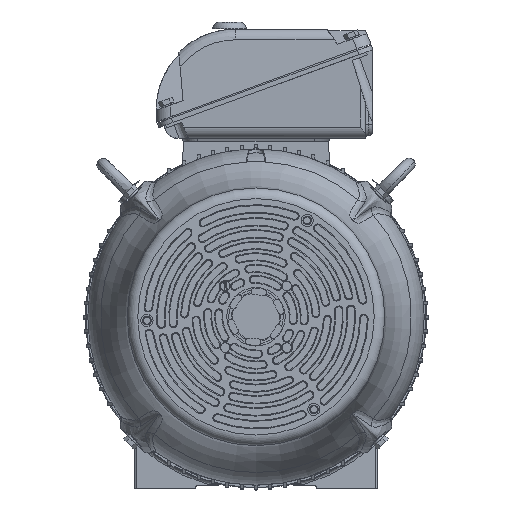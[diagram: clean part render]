
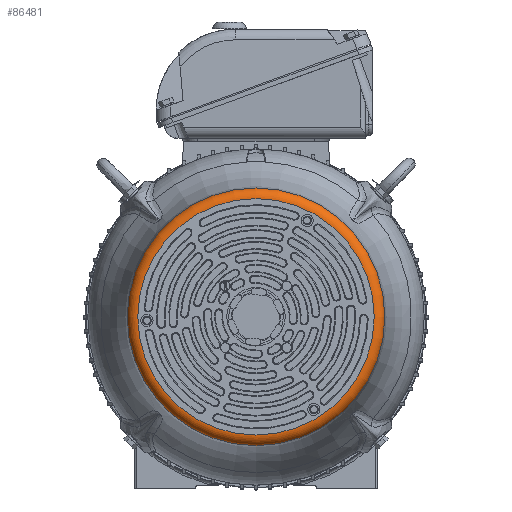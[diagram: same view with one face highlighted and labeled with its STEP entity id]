
A CAD part, top view. The second image highlights one B-rep face of the part: STEP entity #86481.
In plain terms, the highlighted toroidal (fillet/blend) face has major radius 156 mm and minor radius 14 mm.
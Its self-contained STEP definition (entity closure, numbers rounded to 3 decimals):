
#5383=TOROIDAL_SURFACE('',#92766,156.,14.);
#9852=FACE_OUTER_BOUND('',#14873,.T.);
#14873=EDGE_LOOP('',(#63546,#63547,#63548,#63549,#63550,#63551));
#19709=CIRCLE('',#92767,170.);
#19710=CIRCLE('',#92768,170.);
#19711=CIRCLE('',#92769,14.);
#19712=CIRCLE('',#92770,156.);
#19713=CIRCLE('',#92771,156.);
#36542=VERTEX_POINT('',#144948);
#36543=VERTEX_POINT('',#144949);
#36544=VERTEX_POINT('',#144952);
#36545=VERTEX_POINT('',#144954);
#46397=EDGE_CURVE('',#36542,#36543,#19709,.T.);
#46398=EDGE_CURVE('',#36543,#36542,#19710,.T.);
#46399=EDGE_CURVE('',#36543,#36544,#19711,.T.);
#46400=EDGE_CURVE('',#36544,#36545,#19712,.T.);
#46401=EDGE_CURVE('',#36545,#36544,#19713,.T.);
#63546=ORIENTED_EDGE('',*,*,#46397,.F.);
#63547=ORIENTED_EDGE('',*,*,#46398,.F.);
#63548=ORIENTED_EDGE('',*,*,#46399,.T.);
#63549=ORIENTED_EDGE('',*,*,#46400,.T.);
#63550=ORIENTED_EDGE('',*,*,#46401,.T.);
#63551=ORIENTED_EDGE('',*,*,#46399,.F.);
#86481=ADVANCED_FACE('',(#9852),#5383,.T.);
#92766=AXIS2_PLACEMENT_3D('',#144947,#106797,#106798);
#92767=AXIS2_PLACEMENT_3D('',#144950,#106799,#106800);
#92768=AXIS2_PLACEMENT_3D('',#144951,#106801,#106802);
#92769=AXIS2_PLACEMENT_3D('',#144953,#106803,#106804);
#92770=AXIS2_PLACEMENT_3D('',#144955,#106805,#106806);
#92771=AXIS2_PLACEMENT_3D('',#144956,#106807,#106808);
#106797=DIRECTION('center_axis',(0.,0.,
-1.));
#106798=DIRECTION('ref_axis',(0.,1.,0.));
#106799=DIRECTION('center_axis',(0.,0.,
-1.));
#106800=DIRECTION('ref_axis',(0.,1.,0.));
#106801=DIRECTION('center_axis',(0.,0.,
-1.));
#106802=DIRECTION('ref_axis',(0.,1.,0.));
#106803=DIRECTION('center_axis',(-1.,0.,0.));
#106804=DIRECTION('ref_axis',(0.,-1.,0.));
#106805=DIRECTION('center_axis',(0.,0.,
-1.));
#106806=DIRECTION('ref_axis',(0.,1.,0.));
#106807=DIRECTION('center_axis',(0.,0.,
-1.));
#106808=DIRECTION('ref_axis',(0.,1.,0.));
#144947=CARTESIAN_POINT('Origin',(0.,0.,
882.764));
#144948=CARTESIAN_POINT('',(0.,170.,882.764));
#144949=CARTESIAN_POINT('',(0.,-170.,882.764));
#144950=CARTESIAN_POINT('Origin',(0.,0.,
882.764));
#144951=CARTESIAN_POINT('Origin',(0.,0.,
882.764));
#144952=CARTESIAN_POINT('',(0.,-156.,896.764));
#144953=CARTESIAN_POINT('Origin',(0.,-156.,
882.764));
#144954=CARTESIAN_POINT('',(0.,156.,896.764));
#144955=CARTESIAN_POINT('Origin',(0.,0.,
896.764));
#144956=CARTESIAN_POINT('Origin',(0.,0.,
896.764));
